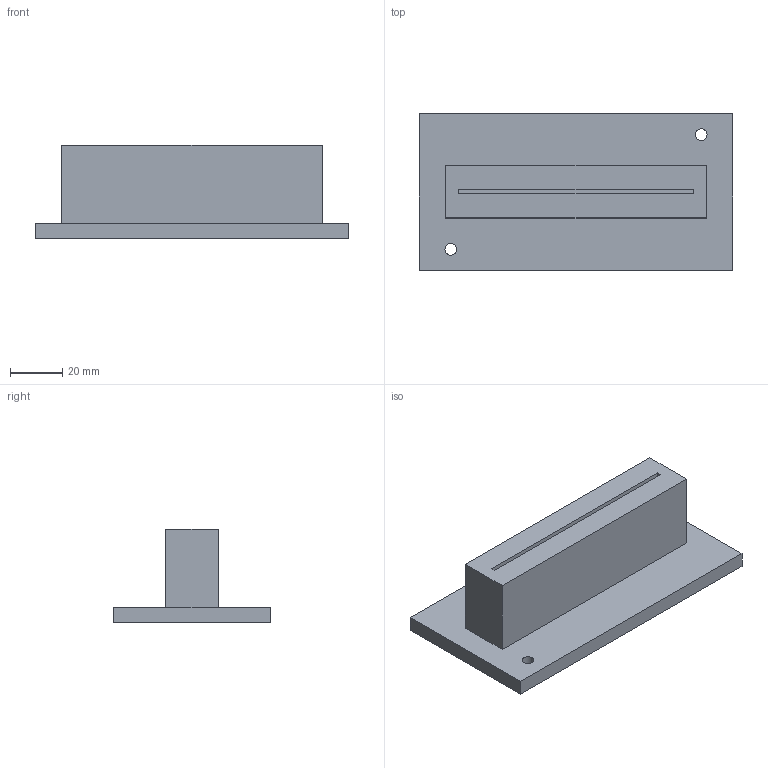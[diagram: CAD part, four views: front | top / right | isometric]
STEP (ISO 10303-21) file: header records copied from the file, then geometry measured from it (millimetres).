
FILE_DESCRIPTION(('Open CASCADE Model'),'2;1');
FILE_NAME('Open CASCADE Shape Model','2026-10-21T16:53:51',('Author'),( 'Open CASCADE'),'Open CASCADE STEP processor 7.9','Open CASCADE 7.9' ,'Unknown');
FILE_SCHEMA(('AUTOMOTIVE_DESIGN { 1 0 10303 214 1 1 1 1 }'));
Length unit declared in the file: millimetre
Products named in the file (1): Open CASCADE STEP translator 7.9 3
Bounding box: 120 x 60 x 36 mm (x, y, z)
Volume: 99121.1 mm3; surface area: 28812.4 mm2
Topology: 1 solids, 1 shells, 18 faces, 42 edges, 28 vertices
Faces by surface type: plane 16, cylinder 2
Full cylindrical faces by diameter (mm): 4.5 x2
Entity records: 1086 total; most frequent: CARTESIAN_POINT 197, DIRECTION 164, LINE 118, VECTOR 118, ORIENTED_EDGE 84, PCURVE 84, DEFINITIONAL_REPRESENTATION 84, EDGE_CURVE 42
